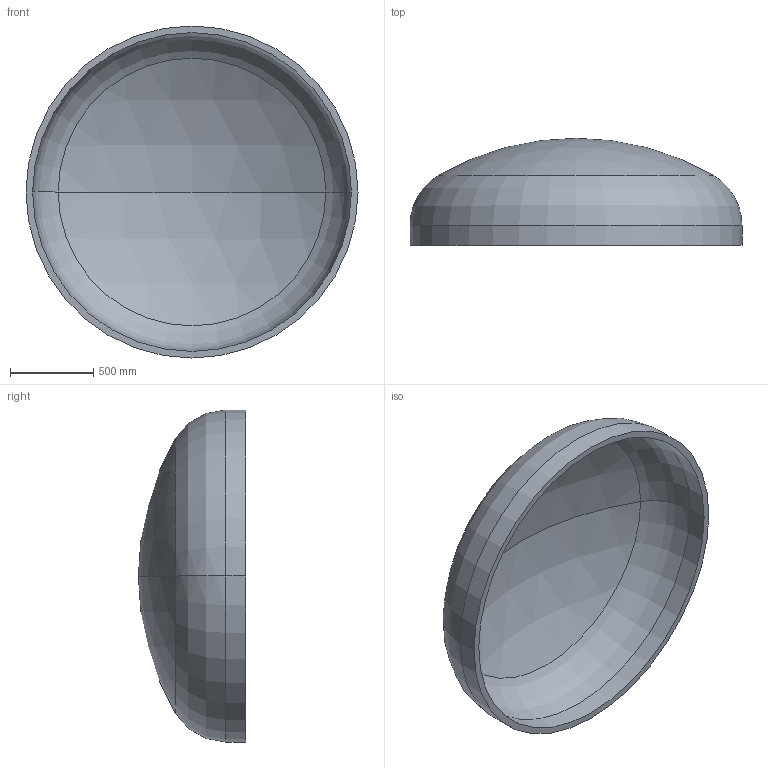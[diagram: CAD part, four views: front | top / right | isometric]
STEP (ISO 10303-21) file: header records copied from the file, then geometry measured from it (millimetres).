
FILE_DESCRIPTION (( 'STEP AP203' ), '1' );
FILE_NAME ('DIN 28013 Korbbogenform_-_Boden DIN 28013 - 2000 x 120 - I - s=40.step', '2016-07-01T13:51:23', ( '' ), ( '' ), 'SwSTEP 2.0', 'SolidWorks 2013', '' );
FILE_SCHEMA (( 'CONFIG_CONTROL_DESIGN' ));
Length unit declared in the file: millimetre
Products named in the file (1): DIN 28013 Korbbogenform_-_Boden DIN 28013 - 2000 x 120 - I - s=40
Bounding box: 2000 x 645.73 x 2000 mm (x, y, z)
Volume: 199294356.9 mm3; surface area: 10214366.6 mm2
Topology: 1 solids, 1 shells, 13 faces, 24 edges, 14 vertices
Faces by surface type: torus 4, cylinder 4, sphere 4, plane 1
Entity records: 407 total; most frequent: DIRECTION 72, CARTESIAN_POINT 52, ORIENTED_EDGE 48, AXIS2_PLACEMENT_3D 34, EDGE_CURVE 24, CIRCLE 20, EDGE_LOOP 14, VERTEX_POINT 14
